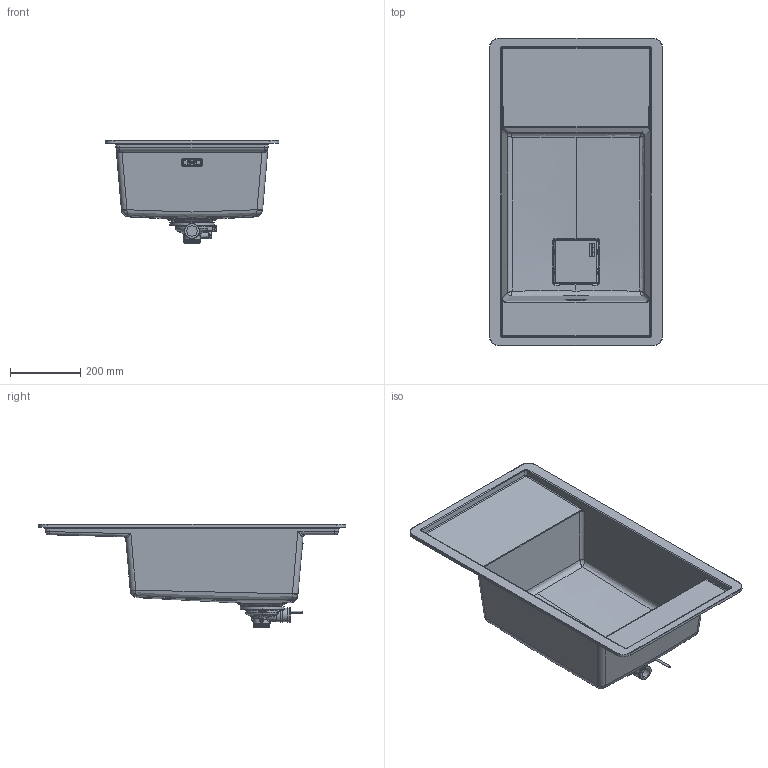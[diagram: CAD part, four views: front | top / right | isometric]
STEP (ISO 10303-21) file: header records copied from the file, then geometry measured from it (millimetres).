
FILE_DESCRIPTION(/* description */ (''),/* implementation_level */ '2;1');
FILE_NAME(/* name */ '3D001_Sinks_Fresno_FSG-611-88',/* time_stamp */ '2024-06-26T10:16:53+02:00',/* author */ (''),/* organization */ (''),/* preprocessor_version */ 'ST-DEVELOPER v19.2',/* originating_system */ 'Rhino 8.8',/* authorisation */ '');
FILE_SCHEMA (('CONFIG_CONTROL_DESIGN'));
Length unit declared in the file: millimetre
Products named in the file (2): Document; Block 02
Bounding box: 494.58 x 876.58 x 295.16 mm (x, y, z)
Volume: 6018060 mm3; surface area: 1645647.4 mm2
Topology: 17 solids, 19 shells, 1990 faces, 5307 edges, 3389 vertices
Faces by surface type: plane 1139, cylinder 433, bspline 418
Entity records: 85584 total; most frequent: CARTESIAN_POINT 44600, ORIENTED_EDGE 10558, EDGE_CURVE 5289, DIRECTION 4326, B_SPLINE_CURVE_WITH_KNOTS 3651, VERTEX_POINT 3389, AXIS2_PLACEMENT_3D 2949, EDGE_LOOP 2094
